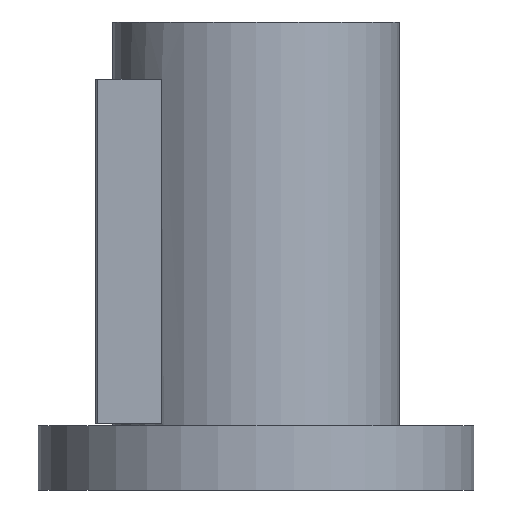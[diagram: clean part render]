
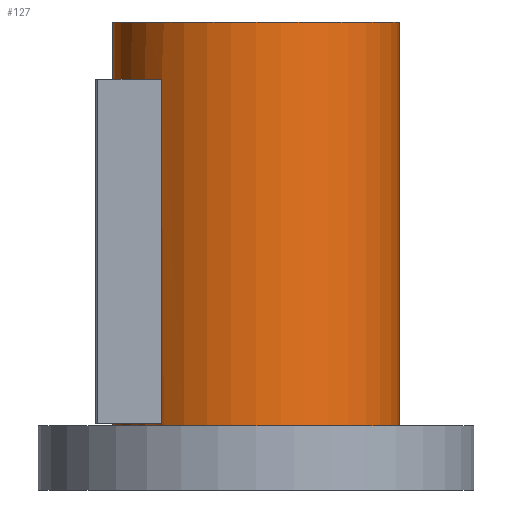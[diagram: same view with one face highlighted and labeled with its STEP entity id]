
A CAD part, front view. The second image highlights one B-rep face of the part: STEP entity #127.
In plain terms, the highlighted cylindrical face has radius 62.5 mm (diameter 125 mm), a full revolution.
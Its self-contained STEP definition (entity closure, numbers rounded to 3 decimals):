
#127=ADVANCED_FACE('',(#200,#201,#202),#155,.T.);
#155=CYLINDRICAL_SURFACE('',#508,62.5);
#168=LINE('',#698,#184);
#169=LINE('',#702,#185);
#184=VECTOR('',#568,1.);
#185=VECTOR('',#571,1.);
#200=FACE_BOUND('',#245,.T.);
#201=FACE_BOUND('',#246,.T.);
#202=FACE_BOUND('',#247,.T.);
#245=EDGE_LOOP('',(#305));
#246=EDGE_LOOP('',(#306));
#247=EDGE_LOOP('',(#307,#308,#309,#310));
#305=ORIENTED_EDGE('',*,*,#431,.F.);
#306=ORIENTED_EDGE('',*,*,#432,.T.);
#307=ORIENTED_EDGE('',*,*,#433,.F.);
#308=ORIENTED_EDGE('',*,*,#434,.F.);
#309=ORIENTED_EDGE('',*,*,#435,.T.);
#310=ORIENTED_EDGE('',*,*,#436,.F.);
#393=VERTEX_POINT('',#692);
#394=VERTEX_POINT('',#694);
#395=VERTEX_POINT('',#696);
#396=VERTEX_POINT('',#697);
#397=VERTEX_POINT('',#699);
#398=VERTEX_POINT('',#701);
#431=EDGE_CURVE('',#393,#393,#475,.T.);
#432=EDGE_CURVE('',#394,#394,#476,.T.);
#433=EDGE_CURVE('',#395,#396,#477,.T.);
#434=EDGE_CURVE('',#397,#395,#168,.T.);
#435=EDGE_CURVE('',#397,#398,#478,.T.);
#436=EDGE_CURVE('',#396,#398,#169,.T.);
#475=CIRCLE('',#504,62.5);
#476=CIRCLE('',#505,62.5);
#477=CIRCLE('',#506,62.5);
#478=CIRCLE('',#507,62.5);
#504=AXIS2_PLACEMENT_3D('',#691,#562,#563);
#505=AXIS2_PLACEMENT_3D('',#693,#564,#565);
#506=AXIS2_PLACEMENT_3D('',#695,#566,#567);
#507=AXIS2_PLACEMENT_3D('',#700,#569,#570);
#508=AXIS2_PLACEMENT_3D('',#703,#572,#573);
#562=DIRECTION('',(0.,0.,1.));
#563=DIRECTION('',(1.,0.,0.));
#564=DIRECTION('',(0.,0.,1.));
#565=DIRECTION('',(1.,0.,0.));
#566=DIRECTION('',(0.,0.,-1.));
#567=DIRECTION('',(-1.,0.,0.));
#568=DIRECTION('',(0.,0.,1.));
#569=DIRECTION('',(0.,0.,-1.));
#570=DIRECTION('',(-1.,0.,0.));
#571=DIRECTION('',(0.,0.,-1.));
#572=DIRECTION('',(0.,0.,-1.));
#573=DIRECTION('',(-1.,0.,0.));
#691=CARTESIAN_POINT('',(0.,0.,204.));
#692=CARTESIAN_POINT('',(62.5,0.,204.));
#693=CARTESIAN_POINT('',(0.,0.,28.));
#694=CARTESIAN_POINT('',(62.5,0.,28.));
#695=CARTESIAN_POINT('',(0.,0.,179.));
#696=CARTESIAN_POINT('',(-41.198,-47.,179.));
#697=CARTESIAN_POINT('',(-41.198,47.,179.));
#698=CARTESIAN_POINT('',(-41.198,-47.,204.));
#699=CARTESIAN_POINT('',(-41.198,-47.,29.));
#700=CARTESIAN_POINT('',(0.,0.,29.));
#701=CARTESIAN_POINT('',(-41.198,47.,29.));
#702=CARTESIAN_POINT('',(-41.198,47.,204.));
#703=CARTESIAN_POINT('',(0.,0.,204.));
